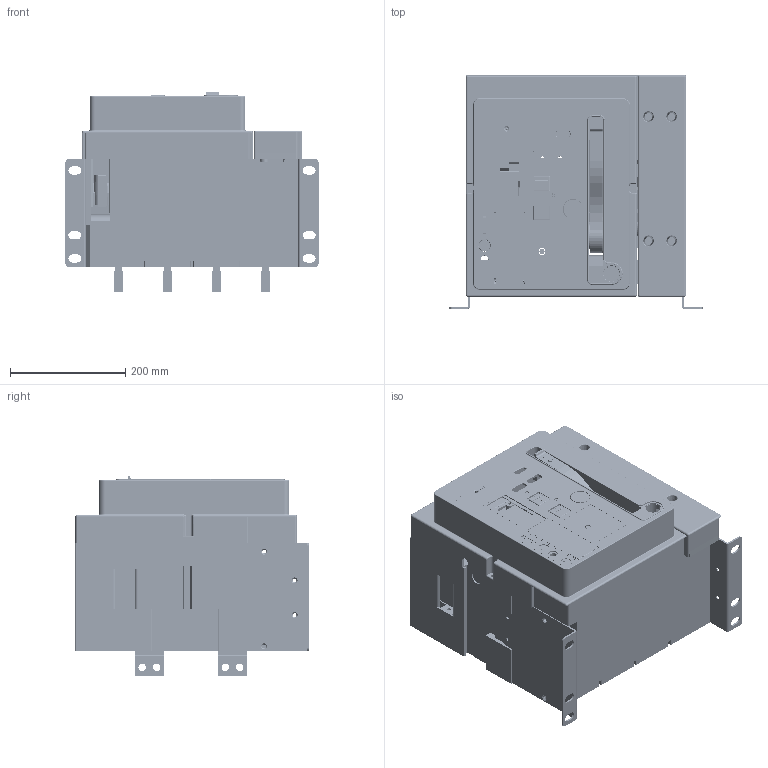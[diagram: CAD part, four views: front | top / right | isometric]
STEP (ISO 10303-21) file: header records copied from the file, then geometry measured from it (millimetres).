
FILE_DESCRIPTION((''),'2;1');
FILE_NAME('HG_04_A164V_FIX_ASM_ASM_ASM','2019-03-29T',('HHI'),(''),'PRO/ENGINEER BY PARAMETRIC TECHNOLOGY CORPORATION, 2012453','PRO/ENGINEER BY PARAMETRIC TECHNOLOGY CORPORATION, 2012453','');
FILE_SCHEMA(('CONFIG_CONTROL_DESIGN'));
Products named in the file (27): PRT0295; PRT0296; PRT0297; PRT0298; PRT0299; PRT0300; PRT0301; ASM0013_ASM_ASM; PRT0302; PRT0303; PRT0304; ASM0014_ASM_ASM; PRT0305; PRT0306; ASM0012_ASM_ASM; PRT0307; ASM0011_ASM_ASM; PRT0308; PRT0309; ASM0010_ASM_ASM; PRT0310; A164V_FIX_ASM_1_ASM_ASM; PRT0311; ASM0072_ASM; 4AT-06477S03; 4AT-06477S04; HG_04_A164V_FIX_ASM_ASM_ASM
Assembly tree (36 placements, depth 8):
  HG_04_A164V_FIX_ASM_ASM_ASM
    ASM0072_ASM
      A164V_FIX_ASM_1_ASM_ASM
        ASM0010_ASM_ASM
          PRT0295
          PRT0296
          PRT0297  x4
          ASM0011_ASM_ASM
            ASM0012_ASM_ASM
              ASM0013_ASM_ASM
                PRT0298
                PRT0299
                PRT0300
                PRT0301
              ASM0014_ASM_ASM
                PRT0302
                PRT0303
                PRT0304
              PRT0305
              PRT0306
            PRT0307
          PRT0308
          PRT0309
        PRT0310  x8
      PRT0311
    4AT-06477S03
    4AT-06477S04
Bounding box: 438.4 x 404.4 x 346.23 mm (x, y, z)
Volume: 8017561.5 mm3; surface area: 2986006.2 mm2
Topology: 29 solids, 56 shells, 7743 faces, 21959 edges, 14498 vertices
Faces by surface type: plane 5012, cylinder 2032, torus 252, extrusion 175, cone 133, sphere 76, bspline 63
Entity records: 248218 total; most frequent: CARTESIAN_POINT 51082, ORIENTED_EDGE 41924, DIRECTION 39656, EDGE_CURVE 21105, VECTOR 15570, LINE 15395, VERTEX_POINT 13958, AXIS2_PLACEMENT_3D 12043
